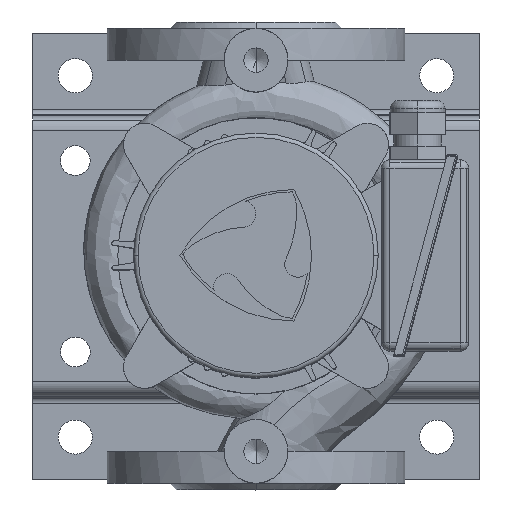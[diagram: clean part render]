
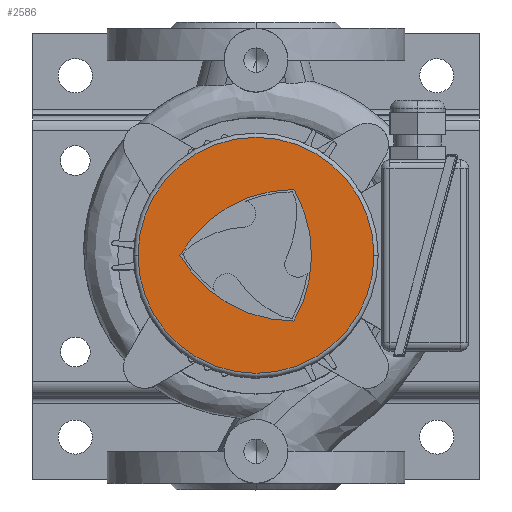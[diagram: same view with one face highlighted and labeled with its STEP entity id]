
A CAD part, top view. The second image highlights one B-rep face of the part: STEP entity #2586.
In plain terms, the highlighted planar face has unit normal (0, 0, 1).
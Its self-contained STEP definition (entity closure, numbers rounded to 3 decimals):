
#2586=ADVANCED_FACE('',(#6096,#6097),#6098,.T.);
#2608=EDGE_CURVE('',#6135,#6136,#6137,.T.);
#2610=EDGE_CURVE('',#6139,#6135,#6140,.T.);
#2612=EDGE_CURVE('',#6142,#6143,#6144,.T.);
#2768=EDGE_CURVE('',#6143,#6351,#6354,.T.);
#2772=EDGE_CURVE('',#6359,#6142,#6360,.T.);
#2778=EDGE_CURVE('',#6351,#6359,#6366,.T.);
#2780=EDGE_CURVE('',#6136,#6139,#6368,.T.);
#6096=FACE_OUTER_BOUND('',#10931,.T.);
#6097=FACE_BOUND('',#10932,.T.);
#6098=PLANE('',#10933);
#6135=VERTEX_POINT('',#10977);
#6136=VERTEX_POINT('',#10978);
#6137=CIRCLE('',#10979,55.5);
#6139=VERTEX_POINT('',#10982);
#6140=CIRCLE('',#10983,55.5);
#6142=VERTEX_POINT('',#10986);
#6143=VERTEX_POINT('',#10987);
#6144=CIRCLE('',#10988,61.9);
#6351=VERTEX_POINT('',#11308);
#6354=CIRCLE('',#11313,61.9);
#6359=VERTEX_POINT('',#11320);
#6360=CIRCLE('',#11321,61.9);
#6366=CIRCLE('',#11331,61.9);
#6368=CIRCLE('',#11334,55.5);
#10931=EDGE_LOOP('',(#20699,#20700,#20701));
#10932=EDGE_LOOP('',(#20702,#20703,#20704,#20705));
#10933=AXIS2_PLACEMENT_3D('',#20706,#20707,#20708);
#10977=CARTESIAN_POINT('',(-61.236,29.38,190.08));
#10978=CARTESIAN_POINT('',(-164.8,1.63,190.08));
#10979=AXIS2_PLACEMENT_3D('',#20758,#20759,#20760);
#10982=CARTESIAN_POINT('',(-53.8,1.63,190.08));
#10983=AXIS2_PLACEMENT_3D('',#20761,#20762,#20763);
#10986=CARTESIAN_POINT('',(-91.483,32.613,190.08));
#10987=CARTESIAN_POINT('',(-90.94,31.653,190.08));
#10988=AXIS2_PLACEMENT_3D('',#20764,#20765,#20766);
#11308=CARTESIAN_POINT('',(-91.45,-29.287,190.08));
#11313=AXIS2_PLACEMENT_3D('',#20924,#20925,#20926);
#11320=CARTESIAN_POINT('',(-145.074,1.634,190.08));
#11321=AXIS2_PLACEMENT_3D('',#20930,#20931,#20932);
#11331=AXIS2_PLACEMENT_3D('',#20937,#20938,#20939);
#11334=AXIS2_PLACEMENT_3D('',#20940,#20941,#20942);
#20699=ORIENTED_EDGE('',*,*,#2608,.T.);
#20700=ORIENTED_EDGE('',*,*,#2780,.T.);
#20701=ORIENTED_EDGE('',*,*,#2610,.T.);
#20702=ORIENTED_EDGE('',*,*,#2612,.T.);
#20703=ORIENTED_EDGE('',*,*,#2768,.T.);
#20704=ORIENTED_EDGE('',*,*,#2778,.T.);
#20705=ORIENTED_EDGE('',*,*,#2772,.T.);
#20706=CARTESIAN_POINT('',(-85.268,15.505,190.08));
#20707=DIRECTION('',(0.0,0.0,1.0));
#20708=DIRECTION('',(1.0,0.0,0.0));
#20758=CARTESIAN_POINT('',(-109.3,1.63,190.08));
#20759=DIRECTION('',(0.0,-0.0,1.0));
#20760=DIRECTION('',(0.866,0.5,0.0));
#20761=CARTESIAN_POINT('',(-109.3,1.63,190.08));
#20762=DIRECTION('',(0.0,-0.0,1.0));
#20763=DIRECTION('',(0.866,0.5,0.0));
#20764=CARTESIAN_POINT('',(-145.074,1.634,190.08));
#20765=DIRECTION('',(0.0,0.0,-1.0));
#20766=DIRECTION('',(0.875,0.485,0.0));
#20924=CARTESIAN_POINT('',(-145.074,1.634,190.08));
#20925=DIRECTION('',(0.0,0.0,-1.0));
#20926=DIRECTION('',(0.875,0.485,0.0));
#20930=CARTESIAN_POINT('',(-91.45,-29.287,190.08));
#20931=DIRECTION('',(0.0,0.0,-1.0));
#20932=DIRECTION('',(0.866,0.5,0.0));
#20937=CARTESIAN_POINT('',(-91.483,32.613,190.08));
#20938=DIRECTION('',(0.0,0.0,-1.0));
#20939=DIRECTION('',(0.883,0.47,0.0));
#20940=CARTESIAN_POINT('',(-109.3,1.63,190.08));
#20941=DIRECTION('',(0.0,-0.0,1.0));
#20942=DIRECTION('',(0.866,0.5,0.0));
